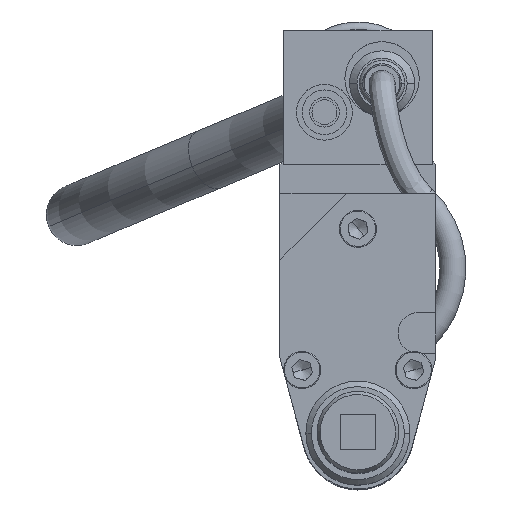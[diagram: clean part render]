
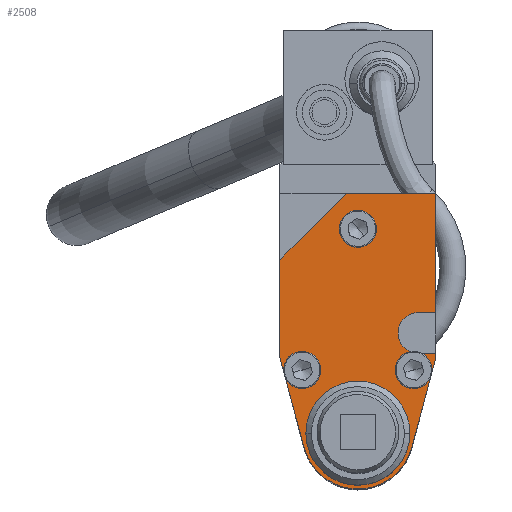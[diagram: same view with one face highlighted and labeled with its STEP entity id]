
A CAD part, top view. The second image highlights one B-rep face of the part: STEP entity #2508.
In plain terms, the highlighted planar face has unit normal (0, 0, 1).
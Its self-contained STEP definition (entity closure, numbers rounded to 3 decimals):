
#2317=CARTESIAN_POINT('Axis2P3D Location',(-15.,-26.54,331.1)) ;
#2321=CARTESIAN_POINT('Vertex',(-11.965,-28.198,331.1)) ;
#2323=CARTESIAN_POINT('Vertex',(-18.035,-24.882,331.1)) ;
#2343=CARTESIAN_POINT('Axis2P3D Location',(-15.,-26.54,331.1)) ;
#2355=CARTESIAN_POINT('Axis2P3D Location',(0.,-43.54,331.1)) ;
#2360=CARTESIAN_POINT('Line Origine',(18.65,-22.04,331.1)) ;
#2364=CARTESIAN_POINT('Vertex',(16.3,-22.04,331.1)) ;
#2366=CARTESIAN_POINT('Vertex',(21.,-22.04,331.1)) ;
#2369=CARTESIAN_POINT('Axis2P3D Location',(16.3,-16.54,331.1)) ;
#2373=CARTESIAN_POINT('Vertex',(16.3,-11.04,331.1)) ;
#2376=CARTESIAN_POINT('Line Origine',(18.65,-11.04,331.1)) ;
#2380=CARTESIAN_POINT('Vertex',(21.,-11.04,331.1)) ;
#2383=CARTESIAN_POINT('Line Origine',(21.,5.01,331.1)) ;
#2387=CARTESIAN_POINT('Vertex',(21.,21.06,331.1)) ;
#2390=CARTESIAN_POINT('Line Origine',(9.,21.06,331.1)) ;
#2394=CARTESIAN_POINT('Vertex',(-3.,21.06,331.1)) ;
#2397=CARTESIAN_POINT('Line Origine',(-12.,12.06,331.1)) ;
#2401=CARTESIAN_POINT('Vertex',(-21.,3.06,331.1)) ;
#2404=CARTESIAN_POINT('Line Origine',(-21.,-10.031,331.1)) ;
#2408=CARTESIAN_POINT('Vertex',(-21.,-23.122,331.1)) ;
#2411=CARTESIAN_POINT('Line Origine',(-17.744,-35.272,331.1)) ;
#2415=CARTESIAN_POINT('Vertex',(-14.489,-47.422,331.1)) ;
#2418=CARTESIAN_POINT('Axis2P3D Location',(0.,-43.54,331.1)) ;
#2422=CARTESIAN_POINT('Vertex',(14.489,-47.422,331.1)) ;
#2425=CARTESIAN_POINT('Line Origine',(17.744,-35.272,331.1)) ;
#2429=CARTESIAN_POINT('Vertex',(21.,-23.122,331.1)) ;
#2432=CARTESIAN_POINT('Line Origine',(21.,-22.581,331.1)) ;
#2454=CARTESIAN_POINT('Axis2P3D Location',(15.,-26.54,331.1)) ;
#2458=CARTESIAN_POINT('Vertex',(11.965,-24.882,331.1)) ;
#2460=CARTESIAN_POINT('Vertex',(18.035,-28.198,331.1)) ;
#2463=CARTESIAN_POINT('Axis2P3D Location',(15.,-26.54,331.1)) ;
#2472=CARTESIAN_POINT('Axis2P3D Location',(0.,11.46,331.1)) ;
#2476=CARTESIAN_POINT('Vertex',(-3.035,13.118,331.1)) ;
#2478=CARTESIAN_POINT('Vertex',(3.035,9.802,331.1)) ;
#2481=CARTESIAN_POINT('Axis2P3D Location',(0.,11.46,331.1)) ;
#2490=CARTESIAN_POINT('Axis2P3D Location',(0.,-43.54,331.1)) ;
#2494=CARTESIAN_POINT('Vertex',(14.,-43.54,331.1)) ;
#2496=CARTESIAN_POINT('Vertex',(-14.,-43.54,331.1)) ;
#2499=CARTESIAN_POINT('Axis2P3D Location',(0.,-43.54,331.1)) ;
#2318=DIRECTION('Axis2P3D Direction',(0.,0.,1.)) ;
#2344=DIRECTION('Axis2P3D Direction',(0.,0.,1.)) ;
#2356=DIRECTION('Axis2P3D Direction',(0.,0.,1.)) ;
#2357=DIRECTION('Axis2P3D XDirection',(1.,0.,0.)) ;
#2361=DIRECTION('Vector Direction',(1.,0.,0.)) ;
#2370=DIRECTION('Axis2P3D Direction',(0.,0.,1.)) ;
#2377=DIRECTION('Vector Direction',(-1.,0.,0.)) ;
#2384=DIRECTION('Vector Direction',(0.,-1.,0.)) ;
#2391=DIRECTION('Vector Direction',(1.,0.,0.)) ;
#2398=DIRECTION('Vector Direction',(-0.707,-0.707,0.)) ;
#2405=DIRECTION('Vector Direction',(0.,1.,0.)) ;
#2412=DIRECTION('Vector Direction',(-0.259,0.966,0.)) ;
#2419=DIRECTION('Axis2P3D Direction',(0.,0.,1.)) ;
#2426=DIRECTION('Vector Direction',(-0.259,-0.966,0.)) ;
#2433=DIRECTION('Vector Direction',(0.,-1.,0.)) ;
#2455=DIRECTION('Axis2P3D Direction',(0.,0.,1.)) ;
#2464=DIRECTION('Axis2P3D Direction',(0.,0.,1.)) ;
#2473=DIRECTION('Axis2P3D Direction',(0.,0.,1.)) ;
#2482=DIRECTION('Axis2P3D Direction',(0.,0.,1.)) ;
#2491=DIRECTION('Axis2P3D Direction',(0.,0.,1.)) ;
#2500=DIRECTION('Axis2P3D Direction',(0.,0.,1.)) ;
#2319=AXIS2_PLACEMENT_3D('Circle Axis2P3D',#2317,#2318,$) ;
#2345=AXIS2_PLACEMENT_3D('Circle Axis2P3D',#2343,#2344,$) ;
#2358=AXIS2_PLACEMENT_3D('Plane Axis2P3D',#2355,#2356,#2357) ;
#2371=AXIS2_PLACEMENT_3D('Circle Axis2P3D',#2369,#2370,$) ;
#2420=AXIS2_PLACEMENT_3D('Circle Axis2P3D',#2418,#2419,$) ;
#2456=AXIS2_PLACEMENT_3D('Circle Axis2P3D',#2454,#2455,$) ;
#2465=AXIS2_PLACEMENT_3D('Circle Axis2P3D',#2463,#2464,$) ;
#2474=AXIS2_PLACEMENT_3D('Circle Axis2P3D',#2472,#2473,$) ;
#2483=AXIS2_PLACEMENT_3D('Circle Axis2P3D',#2481,#2482,$) ;
#2492=AXIS2_PLACEMENT_3D('Circle Axis2P3D',#2490,#2491,$) ;
#2501=AXIS2_PLACEMENT_3D('Circle Axis2P3D',#2499,#2500,$) ;
#2438=ORIENTED_EDGE('',*,*,#2368,.F.) ;
#2439=ORIENTED_EDGE('',*,*,#2375,.F.) ;
#2440=ORIENTED_EDGE('',*,*,#2382,.F.) ;
#2441=ORIENTED_EDGE('',*,*,#2389,.F.) ;
#2442=ORIENTED_EDGE('',*,*,#2396,.F.) ;
#2443=ORIENTED_EDGE('',*,*,#2403,.T.) ;
#2444=ORIENTED_EDGE('',*,*,#2410,.F.) ;
#2445=ORIENTED_EDGE('',*,*,#2417,.F.) ;
#2446=ORIENTED_EDGE('',*,*,#2424,.F.) ;
#2447=ORIENTED_EDGE('',*,*,#2431,.F.) ;
#2448=ORIENTED_EDGE('',*,*,#2436,.F.) ;
#2451=ORIENTED_EDGE('',*,*,#2347,.F.) ;
#2452=ORIENTED_EDGE('',*,*,#2325,.F.) ;
#2469=ORIENTED_EDGE('',*,*,#2462,.F.) ;
#2470=ORIENTED_EDGE('',*,*,#2467,.F.) ;
#2487=ORIENTED_EDGE('',*,*,#2480,.F.) ;
#2488=ORIENTED_EDGE('',*,*,#2485,.F.) ;
#2505=ORIENTED_EDGE('',*,*,#2498,.F.) ;
#2506=ORIENTED_EDGE('',*,*,#2503,.F.) ;
#2453=FACE_BOUND('',#2450,.T.) ;
#2471=FACE_BOUND('',#2468,.T.) ;
#2489=FACE_BOUND('',#2486,.T.) ;
#2507=FACE_BOUND('',#2504,.T.) ;
#2362=VECTOR('Line Direction',#2361,1.) ;
#2378=VECTOR('Line Direction',#2377,1.) ;
#2385=VECTOR('Line Direction',#2384,1.) ;
#2392=VECTOR('Line Direction',#2391,1.) ;
#2399=VECTOR('Line Direction',#2398,1.) ;
#2406=VECTOR('Line Direction',#2405,1.) ;
#2413=VECTOR('Line Direction',#2412,1.) ;
#2427=VECTOR('Line Direction',#2426,1.) ;
#2434=VECTOR('Line Direction',#2433,1.) ;
#2508=ADVANCED_FACE('',(#2449,#2453,#2471,#2489,#2507),#2359,.T.) ;
#2320=CIRCLE('generated circle',#2319,3.459) ;
#2346=CIRCLE('generated circle',#2345,3.459) ;
#2372=CIRCLE('generated circle',#2371,5.5) ;
#2421=CIRCLE('generated circle',#2420,15.) ;
#2457=CIRCLE('generated circle',#2456,3.459) ;
#2466=CIRCLE('generated circle',#2465,3.459) ;
#2475=CIRCLE('generated circle',#2474,3.459) ;
#2484=CIRCLE('generated circle',#2483,3.459) ;
#2493=CIRCLE('generated circle',#2492,14.) ;
#2502=CIRCLE('generated circle',#2501,14.) ;
#2325=EDGE_CURVE('',#2322,#2324,#2320,.T.) ;
#2347=EDGE_CURVE('',#2324,#2322,#2346,.T.) ;
#2368=EDGE_CURVE('',#2365,#2367,#2363,.T.) ;
#2375=EDGE_CURVE('',#2374,#2365,#2372,.T.) ;
#2382=EDGE_CURVE('',#2381,#2374,#2379,.T.) ;
#2389=EDGE_CURVE('',#2388,#2381,#2386,.T.) ;
#2396=EDGE_CURVE('',#2395,#2388,#2393,.T.) ;
#2403=EDGE_CURVE('',#2395,#2402,#2400,.T.) ;
#2410=EDGE_CURVE('',#2409,#2402,#2407,.T.) ;
#2417=EDGE_CURVE('',#2416,#2409,#2414,.T.) ;
#2424=EDGE_CURVE('',#2423,#2416,#2421,.F.) ;
#2431=EDGE_CURVE('',#2430,#2423,#2428,.T.) ;
#2436=EDGE_CURVE('',#2367,#2430,#2435,.T.) ;
#2462=EDGE_CURVE('',#2459,#2461,#2457,.T.) ;
#2467=EDGE_CURVE('',#2461,#2459,#2466,.T.) ;
#2480=EDGE_CURVE('',#2477,#2479,#2475,.T.) ;
#2485=EDGE_CURVE('',#2479,#2477,#2484,.T.) ;
#2498=EDGE_CURVE('',#2495,#2497,#2493,.T.) ;
#2503=EDGE_CURVE('',#2497,#2495,#2502,.T.) ;
#2437=EDGE_LOOP('',(#2438,#2439,#2440,#2441,#2442,#2443,#2444,#2445,#2446,#2447,#2448)) ;
#2450=EDGE_LOOP('',(#2451,#2452)) ;
#2468=EDGE_LOOP('',(#2469,#2470)) ;
#2486=EDGE_LOOP('',(#2487,#2488)) ;
#2504=EDGE_LOOP('',(#2505,#2506)) ;
#2449=FACE_OUTER_BOUND('',#2437,.T.) ;
#2363=LINE('Line',#2360,#2362) ;
#2379=LINE('Line',#2376,#2378) ;
#2386=LINE('Line',#2383,#2385) ;
#2393=LINE('Line',#2390,#2392) ;
#2400=LINE('Line',#2397,#2399) ;
#2407=LINE('Line',#2404,#2406) ;
#2414=LINE('Line',#2411,#2413) ;
#2428=LINE('Line',#2425,#2427) ;
#2435=LINE('Line',#2432,#2434) ;
#2359=PLANE('Plane',#2358) ;
#2322=VERTEX_POINT('',#2321) ;
#2324=VERTEX_POINT('',#2323) ;
#2365=VERTEX_POINT('',#2364) ;
#2367=VERTEX_POINT('',#2366) ;
#2374=VERTEX_POINT('',#2373) ;
#2381=VERTEX_POINT('',#2380) ;
#2388=VERTEX_POINT('',#2387) ;
#2395=VERTEX_POINT('',#2394) ;
#2402=VERTEX_POINT('',#2401) ;
#2409=VERTEX_POINT('',#2408) ;
#2416=VERTEX_POINT('',#2415) ;
#2423=VERTEX_POINT('',#2422) ;
#2430=VERTEX_POINT('',#2429) ;
#2459=VERTEX_POINT('',#2458) ;
#2461=VERTEX_POINT('',#2460) ;
#2477=VERTEX_POINT('',#2476) ;
#2479=VERTEX_POINT('',#2478) ;
#2495=VERTEX_POINT('',#2494) ;
#2497=VERTEX_POINT('',#2496) ;
